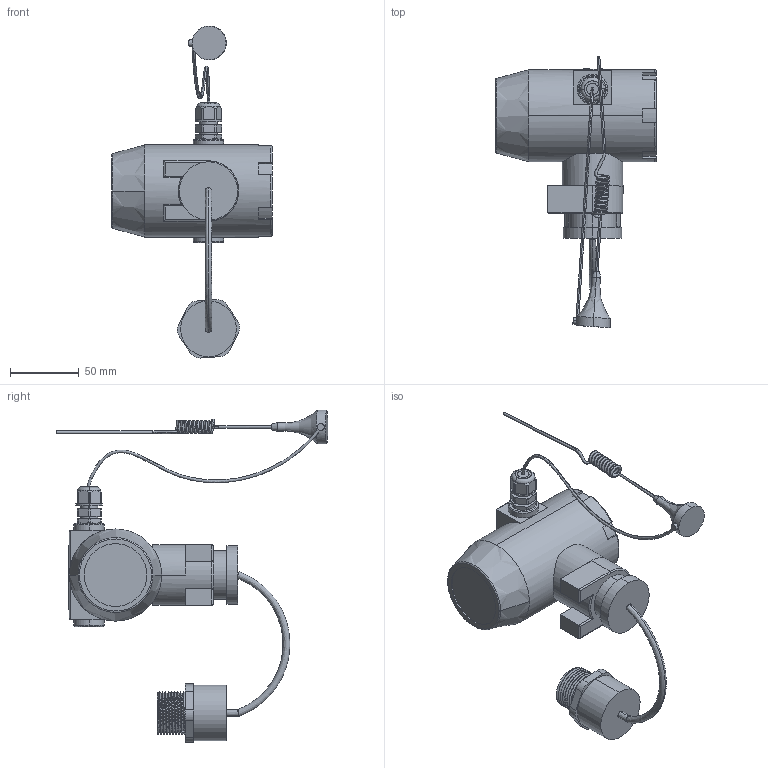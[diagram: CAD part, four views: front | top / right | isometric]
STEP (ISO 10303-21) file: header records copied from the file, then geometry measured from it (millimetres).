
FILE_DESCRIPTION((''),'2;1');
FILE_NAME('ASM0004_ASM','2025-12-29T14:44:59',('28740194'),(''),'CREO PARAMETRIC BY PTC INC, 2024063','CREO PARAMETRIC BY PTC INC, 2024063','');
FILE_SCHEMA(('CONFIG_CONTROL_DESIGN'));
Length unit declared in the file: millimetre
Products named in the file (11): 0003; EV214_27005336_DUMMY_MIR; EV214_27005336_02_MIR; EV214_27005336_03_MIR; EV214_27005336_04_MIR; EV214_27005336_06_MIR; EV214_27005336_07_MIR; ASM0003__ASM; 00; 55000; ASM0004_ASM
Assembly tree (10 placements, depth 3):
  ASM0004_ASM
    0003
    ASM0003__ASM
      EV214_27005336_DUMMY_MIR
      EV214_27005336_02_MIR
      EV214_27005336_03_MIR
      EV214_27005336_04_MIR
      EV214_27005336_06_MIR
      EV214_27005336_07_MIR
    00
    55000
Bounding box: 117 x 197.62 x 241.68 mm (x, y, z)
Volume: 571503.9 mm3; surface area: 68905.1 mm2
Topology: 8 solids, 13 shells, 1086 faces, 3035 edges, 2007 vertices
Faces by surface type: plane 879, cylinder 130, bspline 41, torus 20, cone 12, sphere 4
Entity records: 43093 total; most frequent: CARTESIAN_POINT 14985, ORIENTED_EDGE 6042, DIRECTION 5399, EDGE_CURVE 3029, VECTOR 2443, LINE 2443, VERTEX_POINT 2007, AXIS2_PLACEMENT_3D 1478
